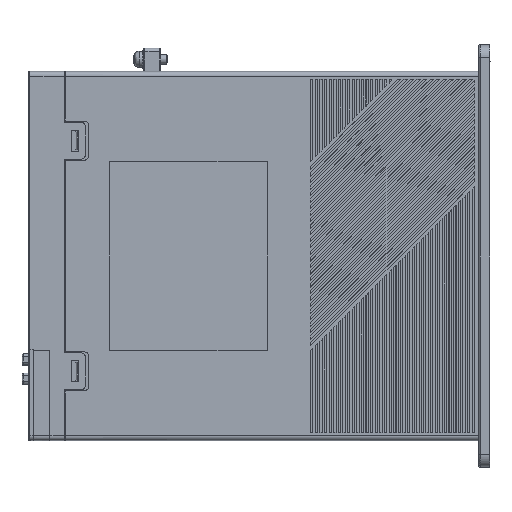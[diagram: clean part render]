
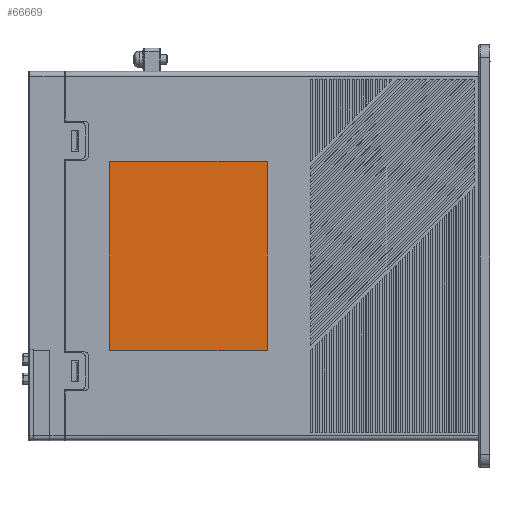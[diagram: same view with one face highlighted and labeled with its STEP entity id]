
A CAD part, left-side view. The second image highlights one B-rep face of the part: STEP entity #66669.
In plain terms, the highlighted planar face has unit normal (-1, 0, 0) as drawn and (0, 0, 1) by its records, which use the part's own axes.
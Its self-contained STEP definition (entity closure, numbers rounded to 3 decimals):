
#51264=DIRECTION('',(0.,1.,0.));
#51265=VECTOR('',#51264,67.5);
#51266=CARTESIAN_POINT('',(41.,92.,-0.3));
#51267=LINE('',#51266,#51265);
#51276=CARTESIAN_POINT('',(-40.5,159.5,-0.3));
#51277=DIRECTION('',(0.,0.,-1.));
#51278=DIRECTION('',(-1.,0.,0.));
#51279=AXIS2_PLACEMENT_3D('',#51276,#51277,#51278);
#51281=CARTESIAN_POINT('',(40.5,159.5,-0.3));
#51282=DIRECTION('',(0.,0.,-1.));
#51283=DIRECTION('',(0.,1.,0.));
#51284=AXIS2_PLACEMENT_3D('',#51281,#51282,#51283);
#51286=CARTESIAN_POINT('',(40.5,92.,-0.3));
#51287=DIRECTION('',(0.,0.,-1.));
#51288=DIRECTION('',(1.,0.,0.));
#51289=AXIS2_PLACEMENT_3D('',#51286,#51287,#51288);
#51291=CARTESIAN_POINT('',(-40.5,92.,-0.3));
#51292=DIRECTION('',(0.,0.,-1.));
#51293=DIRECTION('',(0.,-1.,0.));
#51294=AXIS2_PLACEMENT_3D('',#51291,#51292,#51293);
#51304=DIRECTION('',(0.,-1.,0.));
#51305=VECTOR('',#51304,67.5);
#51306=CARTESIAN_POINT('',(-41.,159.5,-0.3));
#51307=LINE('',#51306,#51305);
#51316=DIRECTION('',(1.,0.,0.));
#51317=VECTOR('',#51316,81.);
#51318=CARTESIAN_POINT('',(-40.5,91.5,-0.3));
#51319=LINE('',#51318,#51317);
#51328=DIRECTION('',(-1.,0.,0.));
#51329=VECTOR('',#51328,81.);
#51330=CARTESIAN_POINT('',(40.5,160.,-0.3));
#51331=LINE('',#51330,#51329);
#53982=CARTESIAN_POINT('',(41.,159.5,-0.3));
#53983=VERTEX_POINT('',#53982);
#53984=CARTESIAN_POINT('',(41.,92.,-0.3));
#53985=VERTEX_POINT('',#53984);
#53986=CARTESIAN_POINT('',(40.5,160.,-0.3));
#53987=VERTEX_POINT('',#53986);
#53988=CARTESIAN_POINT('',(-41.,159.5,-0.3));
#53989=CARTESIAN_POINT('',(-40.5,160.,-0.3));
#53990=VERTEX_POINT('',#53988);
#53991=VERTEX_POINT('',#53989);
#53992=CARTESIAN_POINT('',(40.5,91.5,-0.3));
#53993=VERTEX_POINT('',#53992);
#53994=CARTESIAN_POINT('',(-40.5,91.5,-0.3));
#53995=VERTEX_POINT('',#53994);
#53996=CARTESIAN_POINT('',(-41.,92.,-0.3));
#53997=VERTEX_POINT('',#53996);
#66648=CARTESIAN_POINT('',(0.,0.,-0.3));
#66649=DIRECTION('',(0.,0.,1.));
#66650=DIRECTION('',(1.,0.,0.));
#66651=AXIS2_PLACEMENT_3D('',#66648,#66649,#66650);
#66652=PLANE('',#66651);
#66654=ORIENTED_EDGE('',*,*,#66653,.T.);
#66656=ORIENTED_EDGE('',*,*,#66655,.F.);
#66657=ORIENTED_EDGE('',*,*,#66639,.T.);
#66658=ORIENTED_EDGE('',*,*,#66629,.F.);
#66660=ORIENTED_EDGE('',*,*,#66659,.T.);
#66662=ORIENTED_EDGE('',*,*,#66661,.F.);
#66664=ORIENTED_EDGE('',*,*,#66663,.T.);
#66666=ORIENTED_EDGE('',*,*,#66665,.F.);
#66667=EDGE_LOOP('',(#66654,#66656,#66657,#66658,#66660,#66662,#66664,#66666));
#66668=FACE_OUTER_BOUND('',#66667,.F.);
#66669=ADVANCED_FACE('',(#66668),#66652,.T.);
#51280=CIRCLE('',#51279,0.5);
#51285=CIRCLE('',#51284,0.5);
#51290=CIRCLE('',#51289,0.5);
#51295=CIRCLE('',#51294,0.5);
#66629=EDGE_CURVE('',#53985,#53983,#51267,.T.);
#66639=EDGE_CURVE('',#53987,#53983,#51285,.T.);
#66653=EDGE_CURVE('',#53990,#53991,#51280,.T.);
#66655=EDGE_CURVE('',#53987,#53991,#51331,.T.);
#66659=EDGE_CURVE('',#53985,#53993,#51290,.T.);
#66661=EDGE_CURVE('',#53995,#53993,#51319,.T.);
#66663=EDGE_CURVE('',#53995,#53997,#51295,.T.);
#66665=EDGE_CURVE('',#53990,#53997,#51307,.T.);
